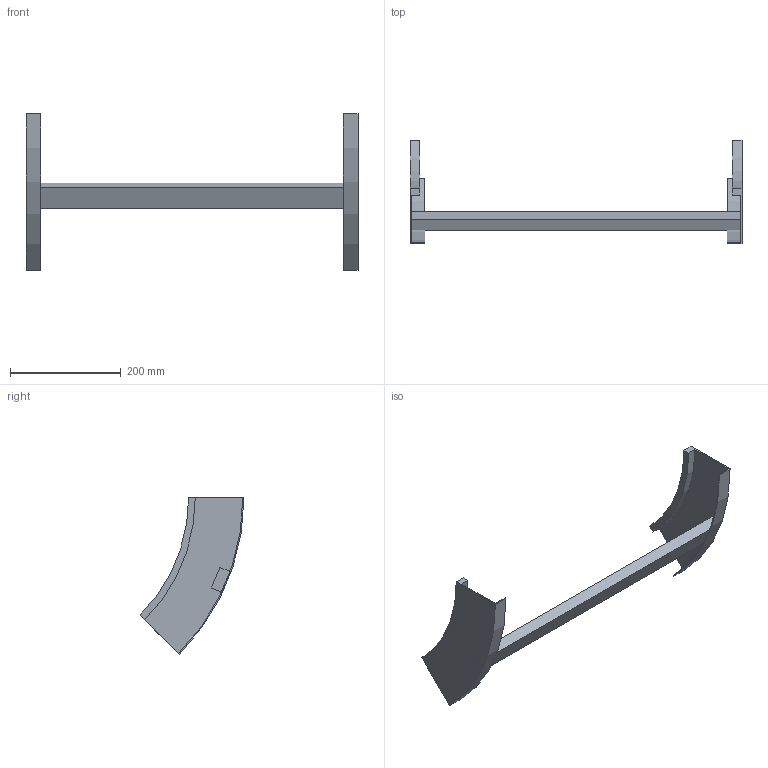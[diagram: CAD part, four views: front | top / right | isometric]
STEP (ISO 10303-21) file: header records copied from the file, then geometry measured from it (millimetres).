
FILE_DESCRIPTION (( 'STEP AP214' ), '1' );
FILE_NAME ('B2X31B3D600XX.step', '2025-03-20T10:05:24', ( '' ), ( '' ), 'SwSTEP 2.0', 'SolidWorks 2023', '' );
FILE_SCHEMA (( 'AUTOMOTIVE_DESIGN' ));
Length unit declared in the file: millimetre
Products named in the file (3): TRAVERSINO_600; B2_LONGH.SALITA_45°_H100_R300; B2X31B3D600XX
Assembly tree (3 placements, depth 2):
  B2X31B3D600XX
    B2_LONGH.SALITA_45°_H100_R300  x2
    TRAVERSINO_600
Bounding box: 600 x 187.87 x 282.84 mm (x, y, z)
Volume: 716340.6 mm3; surface area: 234377.5 mm2
Topology: 3 solids, 3 shells, 26 faces, 60 edges, 40 vertices
Faces by surface type: plane 18, cylinder 8
Entity records: 544 total; most frequent: DIRECTION 88, CARTESIAN_POINT 82, ORIENTED_EDGE 72, EDGE_CURVE 36, AXIS2_PLACEMENT_3D 30, VECTOR 28, LINE 28, VERTEX_POINT 24
